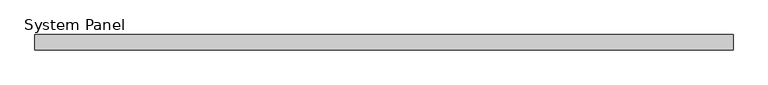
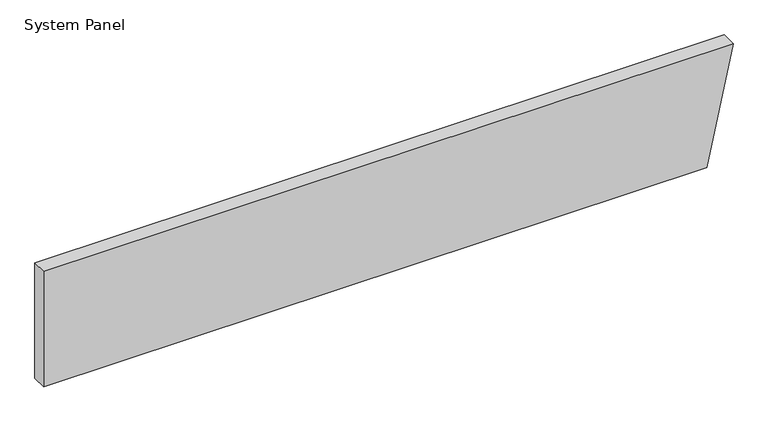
"""IFC4 building model written with IfcOpenShell, lengths in millimetres: plate geometry, System Panel : Equitilt_FlameGuard_150mm_Plain_Surfmist."""

import ifcopenshell
import ifcopenshell.guid

model = None  # the IFC model being written
_history = None  # IfcOwnerHistory: only IFC2X3 demands one
_inside = {}  # id of a spatial element -> (the spatial element, [elements in it])
_under = {}  # id of a project, library or spatial element -> (it, [spatial elements below it])
_declared = {}  # id of a project -> (the project, [libraries it declares])
_typed = {}  # id of a type object -> (the type object, [elements of that type])
_made_of = {}  # id of a material, layer set ... -> (it, [elements and type objects made of it])


def new_model(schema):
    """Start an empty IFC model of exactly this schema.

    Asked for "IFC4X3", IfcOpenShell would pick the latest addendum, in which some entities
    have other attributes; the version numbers below select the first issue.
    IFC2X3 requires an IfcOwnerHistory on every rooted entity: one is made here for all.
    """
    global model, _history
    if schema == "IFC4X3":
        model = ifcopenshell.file(schema_version=(4, 3, 0, 0))
    else:
        model = ifcopenshell.file(schema=schema)
    _inside.clear()
    _under.clear()
    _declared.clear()
    _typed.clear()
    _made_of.clear()
    _history = None
    if model.schema == "IFC2X3":
        org = make("IfcOrganization", Name="unknown")
        user = make(
            "IfcPersonAndOrganization",
            ThePerson=make("IfcPerson", FamilyName="unknown"),
            TheOrganization=org,
        )
        app = make(
            "IfcApplication",
            ApplicationDeveloper=org,
            Version="unknown",
            ApplicationFullName="unknown",
            ApplicationIdentifier="unknown",
        )
        _history = make(
            "IfcOwnerHistory",
            OwningUser=user,
            OwningApplication=app,
            ChangeAction="ADDED",
            CreationDate=0,
        )
    return model


def make(cls, **values):
    """One entity of the class cls with the attributes given. An attribute that is None is left unset."""
    return model.create_entity(
        cls, **{name: value for name, value in values.items() if value is not None}
    )


def rooted(cls, **values):
    """An entity with a GlobalId (a new one), such as an element, a storey or a relation."""
    return make(cls, GlobalId=ifcopenshell.guid.new(), OwnerHistory=_history, **values)


def si_unit(unit_type, name, prefix=None):
    """IfcSIUnit, for example si_unit("LENGTHUNIT", "METRE", prefix="MILLI")."""
    return make("IfcSIUnit", UnitType=unit_type, Prefix=prefix, Name=name)


def assignment(units):
    """IfcUnitAssignment: the units of a project."""
    return None if units is None else make("IfcUnitAssignment", Units=units)


def point(xyz):
    """IfcCartesianPoint."""
    return None if xyz is None else make("IfcCartesianPoint", Coordinates=xyz)


def direction(xyz):
    """IfcDirection."""
    return None if xyz is None else make("IfcDirection", DirectionRatios=xyz)


def frame(location, z_axis=None, x_axis=None):
    """IfcAxis2Placement3D, a coordinate frame: its origin and axes. An axis left out is left unset."""
    return make(
        "IfcAxis2Placement3D",
        Location=point(location),
        Axis=direction(z_axis),
        RefDirection=direction(x_axis),
    )


def origin():
    """The frame at (0, 0, 0) with its axes left unset."""
    return frame((0.0, 0.0, 0.0))


def place(relative_to, where):
    """IfcLocalPlacement: puts the frame where relative to a parent placement (None: the world)."""
    return make(
        "IfcLocalPlacement", PlacementRelTo=relative_to, RelativePlacement=where
    )


def context(
    kind, dimensions, precision=None, world=None, true_north=None, identifier=None
):
    """IfcGeometricRepresentationContext, for example the 3D "Model" context."""
    return make(
        "IfcGeometricRepresentationContext",
        ContextIdentifier=identifier,
        ContextType=kind,
        CoordinateSpaceDimension=dimensions,
        Precision=precision,
        WorldCoordinateSystem=world,
        TrueNorth=true_north,
    )


def project(units=None, contexts=None):
    """IfcProject with its units and contexts."""
    return rooted(
        "IfcProject",
        Name="project",
        RepresentationContexts=contexts,
        UnitsInContext=assignment(units),
    )


def spatial(cls, under=None, at=None, **own):
    """A site, building, storey or space (cls), placed at a placement, below another one or the project."""
    s = rooted(cls, ObjectPlacement=at, **own)
    if under is not None:
        _under.setdefault(under.id(), (under, []))[1].append(s)
    return s


def polyline(points):
    """IfcPolyline through the points."""
    return make("IfcPolyline", Points=[point(p) for p in points])


def outline(outer, holes=None, kind="AREA"):
    """IfcArbitraryClosedProfileDef: a profile drawn as a closed curve; with holes, ...WithVoids."""
    if holes is None:
        return make("IfcArbitraryClosedProfileDef", ProfileType=kind, OuterCurve=outer)
    return make(
        "IfcArbitraryProfileDefWithVoids",
        ProfileType=kind,
        OuterCurve=outer,
        InnerCurves=holes,
    )


def extrude(swept, where, along, depth):
    """IfcExtrudedAreaSolid: the profile swept, set in the frame where, extruded along a direction by depth."""
    return make(
        "IfcExtrudedAreaSolid",
        SweptArea=swept,
        Position=where,
        ExtrudedDirection=direction(along),
        Depth=depth,
    )


def shape(context_of_items, identifier, shape_type, items):
    """IfcShapeRepresentation: the items that make up one representation, for example the "Body"."""
    return make(
        "IfcShapeRepresentation",
        ContextOfItems=context_of_items,
        RepresentationIdentifier=identifier,
        RepresentationType=shape_type,
        Items=items,
    )


def source(mapping_origin, context_of_items, identifier, shape_type, items):
    """IfcRepresentationMap: a shape defined once, which mapped items show again and again."""
    return make(
        "IfcRepresentationMap",
        MappingOrigin=mapping_origin,
        MappedRepresentation=shape(context_of_items, identifier, shape_type, items),
    )


def transform(
    local_origin,
    x_axis=None,
    y_axis=None,
    z_axis=None,
    scale=None,
    scale2=None,
    scale3=None,
    uniform=True,
):
    """IfcCartesianTransformationOperator3D, or its non-uniform kind. x_axis, y_axis, z_axis: its Axis1, 2, 3."""
    if uniform:
        return make(
            "IfcCartesianTransformationOperator3D",
            Axis1=direction(x_axis),
            Axis2=direction(y_axis),
            LocalOrigin=point(local_origin),
            Scale=scale,
            Axis3=direction(z_axis),
        )
    return make(
        "IfcCartesianTransformationOperator3DnonUniform",
        Axis1=direction(x_axis),
        Axis2=direction(y_axis),
        LocalOrigin=point(local_origin),
        Scale=scale,
        Axis3=direction(z_axis),
        Scale2=scale2,
        Scale3=scale3,
    )


def mapped(mapping_source, mapping_target):
    """IfcMappedItem: shows the shape of a source again, moved by a transform."""
    return make(
        "IfcMappedItem", MappingSource=mapping_source, MappingTarget=mapping_target
    )


def made_of(thing, what):
    """Note that an element or type object is made of a material, layer set ...; save() writes the relation."""
    if what is not None:
        _made_of.setdefault(what.id(), (what, []))[1].append(thing)
    return thing


def element(
    cls,
    number,
    at=None,
    inside=None,
    cuts=None,
    type_object=None,
    material=None,
    context=None,
    identifier="Body",
    shape_type=None,
    held_by="IfcProductDefinitionShape",
    body=None,
    shapes=None,
    **own,
):
    """One element of the class cls, such as IfcWall. Its Tag is "e" and its number.

    at: its placement. inside: the storey or other place that contains it. cuts: it is an
    opening in that element (IfcRelVoidsElement). A single representation is given by context,
    identifier, shape_type and body (its items); several are given by shapes. held_by: the class
    of the entity that holds the representations. save() writes the other relations.
    """
    e = rooted(cls, Tag="e%d" % number, ObjectPlacement=at, **own)
    if body is not None:
        shapes = [shape(context, identifier, shape_type, body)]
    if shapes is not None:
        e.Representation = make(held_by, Representations=shapes)
    if inside is not None:
        _inside.setdefault(inside.id(), (inside, []))[1].append(e)
    if cuts is not None:
        rooted(
            "IfcRelVoidsElement", RelatingBuildingElement=cuts, RelatedOpeningElement=e
        )
    if type_object is not None:
        _typed.setdefault(type_object.id(), (type_object, []))[1].append(e)
    return made_of(e, material)


def aggregate(whole, parts):
    """IfcRelAggregates: a whole, such as a stair, and the parts it consists of."""
    return rooted("IfcRelAggregates", RelatingObject=whole, RelatedObjects=parts)


def save(model, path):
    """Write the relations noted so far, then the file.

    IfcRelAggregates (storeys below a building ...), IfcRelContainedInSpatialStructure (elements
    in a storey), IfcRelDefinesByType, IfcRelAssociatesMaterial and IfcRelDeclares: one each for
    every whole, place, type object, material and project.
    """
    for whole, parts in _under.values():
        aggregate(whole, parts)
    for where, things in _inside.values():
        rooted(
            "IfcRelContainedInSpatialStructure",
            RelatedElements=things,
            RelatingStructure=where,
        )
    for kind, things in _typed.values():
        rooted("IfcRelDefinesByType", RelatedObjects=things, RelatingType=kind)
    for what, things in _made_of.values():
        rooted("IfcRelAssociatesMaterial", RelatedObjects=things, RelatingMaterial=what)
    for by, libraries in _declared.values():
        rooted("IfcRelDeclares", RelatingContext=by, RelatedDefinitions=libraries)
    model.write(path)


def system_panel_79f063a0(model_context):
    return source(origin(), model_context, "Body", "SweptSolid", [
        extrude(outline(polyline([(0.0, -3386.3074928), (0.0, 3125.4358309), (1200.0, 3386.3074928), (1200.0, -3386.3074928), (0.0, -3386.3074928)])), frame((0.0, -150.0, 0.0), z_axis=(0.0, 1.0, 0.0), x_axis=(0.0, 0.0, 1.0)), (0.0, 0.0, 1.0), 150.0),
    ])


if __name__ == "__main__":
    model = new_model("IFC4")
    model_context = context("Model", 3, world=origin())
    ifc_project = project(units=[si_unit("LENGTHUNIT", "METRE", prefix="MILLI")], contexts=[model_context])
    site = spatial("IfcSite", under=ifc_project)
    building = spatial("IfcBuilding", under=site)
    placement = place(None, origin())
    system_panel_shape = system_panel_79f063a0(model_context)
    element("IfcPlate", 1, ObjectType="System Panel : Equitilt_FlameGuard_150mm_Plain_Surfmist", at=placement, inside=building, context=model_context, shape_type="MappedRepresentation", body=[
        mapped(system_panel_shape, transform((0.0, 0.0, 0.0), x_axis=(1.0, 0.0, 0.0), y_axis=(0.0, 1.0, 0.0), z_axis=(0.0, 0.0, 1.0))),
    ])
    save(model, "model.ifc")
